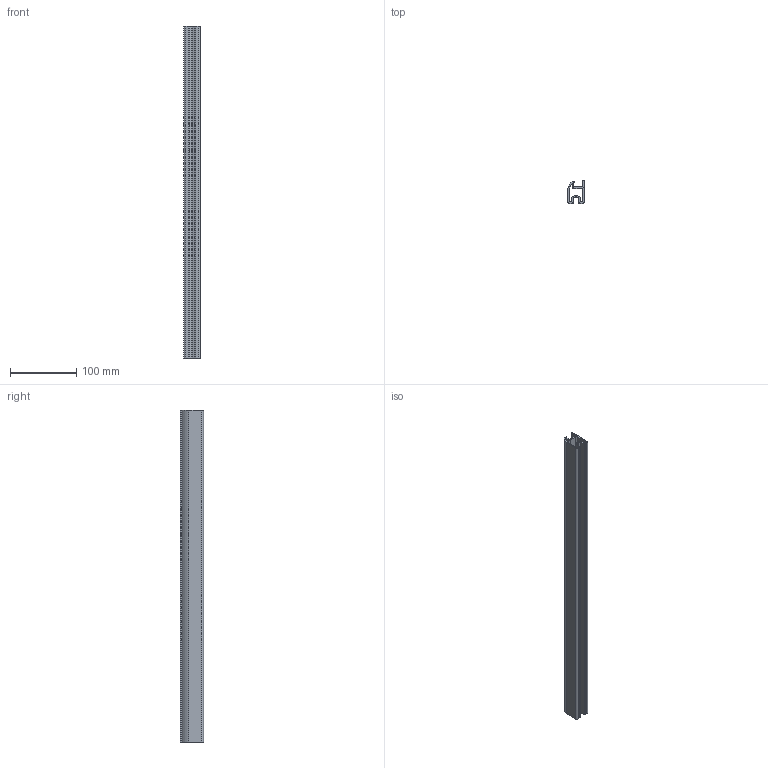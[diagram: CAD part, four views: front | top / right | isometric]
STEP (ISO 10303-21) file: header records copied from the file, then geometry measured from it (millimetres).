
FILE_DESCRIPTION (( 'STEP AP214' ), '1' );
FILE_NAME ('A40722.step', '2024-12-03T16:12:16', ( '' ), ( '' ), 'SwSTEP 2.0', 'SolidWorks 2023', '' );
FILE_SCHEMA (( 'AUTOMOTIVE_DESIGN' ));
Length unit declared in the file: millimetre
Products named in the file (1): A40722
Bounding box: 25 x 34.93 x 500 mm (x, y, z)
Volume: 128973.9 mm3; surface area: 127415.2 mm2
Topology: 1 solids, 1 shells, 56 faces, 162 edges, 108 vertices
Faces by surface type: plane 28, cylinder 28
Entity records: 1889 total; most frequent: DIRECTION 332, CARTESIAN_POINT 327, ORIENTED_EDGE 324, EDGE_CURVE 162, AXIS2_PLACEMENT_3D 113, VERTEX_POINT 108, LINE 106, VECTOR 106
